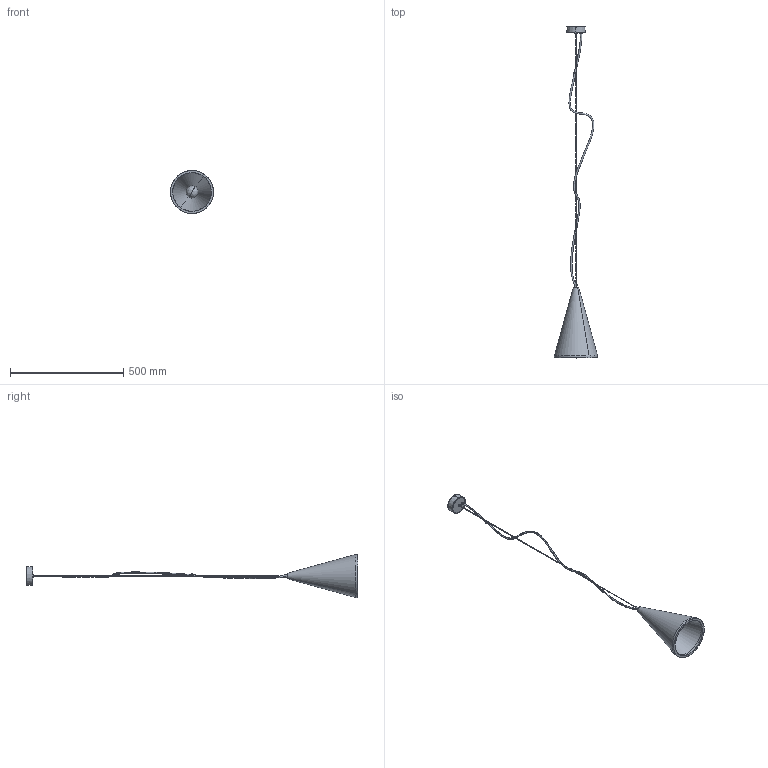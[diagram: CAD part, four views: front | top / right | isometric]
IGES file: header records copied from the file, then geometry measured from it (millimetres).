
Start section: SolidWorks IGES file using analytic representation for surfaces
Global section: file name: E:\3D lampy\Volcano\Volcano_6852.IGS; native system: SolidWorks 2016; preprocessor: SolidWorks 2016; author: Asia; date: 161028.112237; units: millimetre
Bounding box: 189.85 x 1464.33 x 189.85 mm (x, y, z)
Surface area: 297819.7 mm2 (no closed solid volume)
Topology: 0 solids, 0 shells, 469 faces, 5032 edges, 5030 vertices
Faces by surface type: bspline 268, revolution 201
